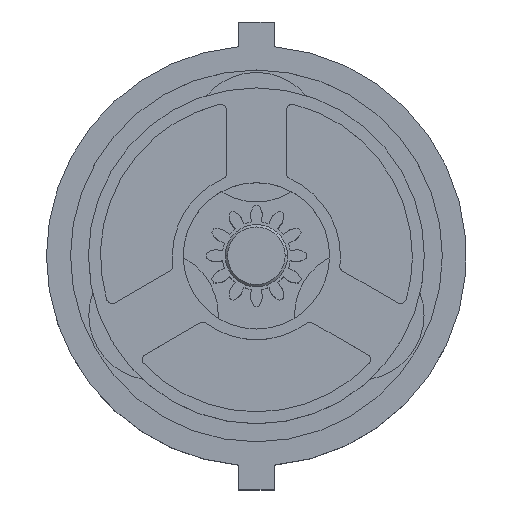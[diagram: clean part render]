
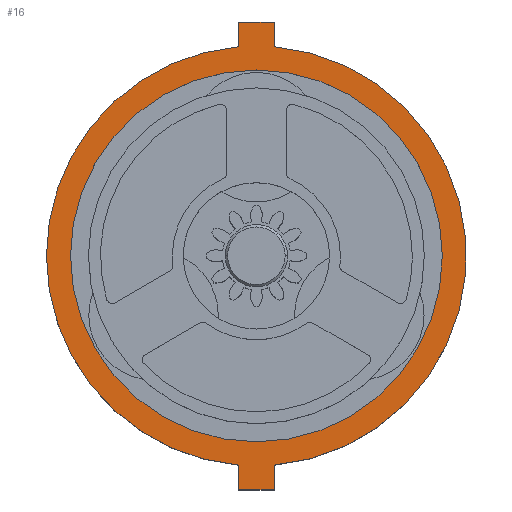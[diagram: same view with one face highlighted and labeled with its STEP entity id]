
A CAD part, top view. The second image highlights one B-rep face of the part: STEP entity #16.
In plain terms, the highlighted planar face has unit normal (0, 0, 1).
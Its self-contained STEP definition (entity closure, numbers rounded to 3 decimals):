
#16 = ADVANCED_FACE ( 'NONE', ( #10467, #9628 ), #8564, .T. ) ;
#122 = ORIENTED_EDGE ( 'NONE', *, *, #7632, .T. ) ;
#283 = ORIENTED_EDGE ( 'NONE', *, *, #7115, .T. ) ;
#486 = VECTOR ( 'NONE', #4124, 1000. ) ;
#513 = ORIENTED_EDGE ( 'NONE', *, *, #13094, .T. ) ;
#783 = CARTESIAN_POINT ( 'NONE',  ( 15.5, 0., 4.5 ) ) ;
#1012 = ORIENTED_EDGE ( 'NONE', *, *, #5580, .T. ) ;
#1371 = CARTESIAN_POINT ( 'NONE',  ( 0., 0., 4.5 ) ) ;
#1378 = ORIENTED_EDGE ( 'NONE', *, *, #4938, .T. ) ;
#1844 = CARTESIAN_POINT ( 'NONE',  ( -1.5, -19.5, 4.5 ) ) ;
#1932 = EDGE_CURVE ( 'NONE', #12867, #13329, #11284, .T. ) ;
#1973 = DIRECTION ( 'NONE',  ( 1., 0., 0. ) ) ;
#2109 = AXIS2_PLACEMENT_3D ( 'NONE', #7682, #3097, #3163 ) ;
#2164 = CARTESIAN_POINT ( 'NONE',  ( -17.5, 0., 4.5 ) ) ;
#2802 = CARTESIAN_POINT ( 'NONE',  ( -1.5, 17.436, 4.5 ) ) ;
#2823 = CARTESIAN_POINT ( 'NONE',  ( -1.5, 17.436, 4.5 ) ) ;
#2829 = VERTEX_POINT ( 'NONE', #11119 ) ;
#2920 = EDGE_CURVE ( 'NONE', #3107, #10371, #13576, .T. ) ;
#3029 = CARTESIAN_POINT ( 'NONE',  ( -1.5, 19.5, 4.5 ) ) ;
#3097 = DIRECTION ( 'NONE',  ( 0., 0., 1. ) ) ;
#3107 = VERTEX_POINT ( 'NONE', #7514 ) ;
#3163 = DIRECTION ( 'NONE',  ( 1., 0., 0. ) ) ;
#3195 = DIRECTION ( 'NONE',  ( 0., 0., 1. ) ) ;
#3249 = DIRECTION ( 'NONE',  ( 0., 0., 1. ) ) ;
#3260 = DIRECTION ( 'NONE',  ( -1., 0., 0. ) ) ;
#3361 = CARTESIAN_POINT ( 'NONE',  ( 0., 0., 4.5 ) ) ;
#3383 = VERTEX_POINT ( 'NONE', #5373 ) ;
#3479 = AXIS2_PLACEMENT_3D ( 'NONE', #3361, #12950, #8924 ) ;
#3516 = CARTESIAN_POINT ( 'NONE',  ( -15.5, 0., 4.5 ) ) ;
#3737 = DIRECTION ( 'NONE',  ( 0., -1., 0. ) ) ;
#4117 = CIRCLE ( 'NONE', #13799, 15.5 ) ;
#4124 = DIRECTION ( 'NONE',  ( 0., 1., 0. ) ) ;
#4382 = CARTESIAN_POINT ( 'NONE',  ( -1.5, -19.5, 4.5 ) ) ;
#4732 = CARTESIAN_POINT ( 'NONE',  ( -1.5, -19.5, 4.5 ) ) ;
#4771 = EDGE_CURVE ( 'NONE', #9414, #11873, #4117, .T. ) ;
#4791 = EDGE_LOOP ( 'NONE', ( #8716, #8245 ) ) ;
#4938 = EDGE_CURVE ( 'NONE', #3383, #7854, #7848, .T. ) ;
#5054 = CARTESIAN_POINT ( 'NONE',  ( 1.5, 17.436, 4.5 ) ) ;
#5252 = ORIENTED_EDGE ( 'NONE', *, *, #1932, .T. ) ;
#5373 = CARTESIAN_POINT ( 'NONE',  ( -1.5, -17.436, 4.5 ) ) ;
#5490 = CIRCLE ( 'NONE', #2109, 17.5 ) ;
#5580 = EDGE_CURVE ( 'NONE', #10371, #2829, #7759, .T. ) ;
#5922 = VECTOR ( 'NONE', #12152, 1000. ) ;
#6416 = EDGE_CURVE ( 'NONE', #7854, #3107, #9670, .T. ) ;
#6569 = DIRECTION ( 'NONE',  ( 1., 0., 0. ) ) ;
#6711 = AXIS2_PLACEMENT_3D ( 'NONE', #8538, #3249, #1973 ) ;
#7115 = EDGE_CURVE ( 'NONE', #2829, #7221, #10202, .T. ) ;
#7221 = VERTEX_POINT ( 'NONE', #10550 ) ;
#7321 = EDGE_LOOP ( 'NONE', ( #1012, #283, #122, #5252, #7360, #513, #1378, #13392, #12082 ) ) ;
#7360 = ORIENTED_EDGE ( 'NONE', *, *, #9550, .T. ) ;
#7514 = CARTESIAN_POINT ( 'NONE',  ( 1.5, -19.5, 4.5 ) ) ;
#7632 = EDGE_CURVE ( 'NONE', #7221, #12867, #9672, .T. ) ;
#7682 = CARTESIAN_POINT ( 'NONE',  ( 0., 0., 4.5 ) ) ;
#7759 = CIRCLE ( 'NONE', #3479, 17.5 ) ;
#7848 = LINE ( 'NONE', #4732, #5922 ) ;
#7854 = VERTEX_POINT ( 'NONE', #1844 ) ;
#7924 = DIRECTION ( 'NONE',  ( 1., 0., 0. ) ) ;
#8031 = VECTOR ( 'NONE', #3260, 1000. ) ;
#8062 = CIRCLE ( 'NONE', #6711, 17.5 ) ;
#8122 = VECTOR ( 'NONE', #3737, 1000. ) ;
#8245 = ORIENTED_EDGE ( 'NONE', *, *, #8932, .F. ) ;
#8268 = AXIS2_PLACEMENT_3D ( 'NONE', #1371, #13281, #7924 ) ;
#8538 = CARTESIAN_POINT ( 'NONE',  ( 0., 0., 4.5 ) ) ;
#8561 = CARTESIAN_POINT ( 'NONE',  ( 0., 0., 4.5 ) ) ;
#8564 = PLANE ( 'NONE',  #10345 ) ;
#8716 = ORIENTED_EDGE ( 'NONE', *, *, #4771, .F. ) ;
#8924 = DIRECTION ( 'NONE',  ( 1., 0., 0. ) ) ;
#8932 = EDGE_CURVE ( 'NONE', #11873, #9414, #12100, .T. ) ;
#9414 = VERTEX_POINT ( 'NONE', #783 ) ;
#9415 = CARTESIAN_POINT ( 'NONE',  ( 1.5, -19.5, 4.5 ) ) ;
#9424 = DIRECTION ( 'NONE',  ( 0., 1., 0. ) ) ;
#9479 = DIRECTION ( 'NONE',  ( 0., 0., 1. ) ) ;
#9550 = EDGE_CURVE ( 'NONE', #13329, #10046, #8062, .T. ) ;
#9577 = VECTOR ( 'NONE', #6569, 1000. ) ;
#9628 = FACE_OUTER_BOUND ( 'NONE', #7321, .T. ) ;
#9670 = LINE ( 'NONE', #4382, #9577 ) ;
#9672 = LINE ( 'NONE', #12918, #8031 ) ;
#10046 = VERTEX_POINT ( 'NONE', #2164 ) ;
#10202 = LINE ( 'NONE', #5054, #12304 ) ;
#10345 = AXIS2_PLACEMENT_3D ( 'NONE', #13783, #9479, #11735 ) ;
#10371 = VERTEX_POINT ( 'NONE', #11326 ) ;
#10467 = FACE_BOUND ( 'NONE', #4791, .T. ) ;
#10550 = CARTESIAN_POINT ( 'NONE',  ( 1.5, 19.5, 4.5 ) ) ;
#11119 = CARTESIAN_POINT ( 'NONE',  ( 1.5, 17.436, 4.5 ) ) ;
#11284 = LINE ( 'NONE', #2823, #8122 ) ;
#11326 = CARTESIAN_POINT ( 'NONE',  ( 1.5, -17.436, 4.5 ) ) ;
#11735 = DIRECTION ( 'NONE',  ( 1., 0., 0. ) ) ;
#11873 = VERTEX_POINT ( 'NONE', #3516 ) ;
#12082 = ORIENTED_EDGE ( 'NONE', *, *, #2920, .T. ) ;
#12100 = CIRCLE ( 'NONE', #8268, 15.5 ) ;
#12152 = DIRECTION ( 'NONE',  ( 0., -1., 0. ) ) ;
#12304 = VECTOR ( 'NONE', #9424, 1000. ) ;
#12860 = DIRECTION ( 'NONE',  ( 1., 0., 0. ) ) ;
#12867 = VERTEX_POINT ( 'NONE', #3029 ) ;
#12918 = CARTESIAN_POINT ( 'NONE',  ( -1.5, 19.5, 4.5 ) ) ;
#12950 = DIRECTION ( 'NONE',  ( 0., 0., 1. ) ) ;
#13094 = EDGE_CURVE ( 'NONE', #10046, #3383, #5490, .T. ) ;
#13281 = DIRECTION ( 'NONE',  ( 0., 0., 1. ) ) ;
#13329 = VERTEX_POINT ( 'NONE', #2802 ) ;
#13392 = ORIENTED_EDGE ( 'NONE', *, *, #6416, .T. ) ;
#13576 = LINE ( 'NONE', #9415, #486 ) ;
#13783 = CARTESIAN_POINT ( 'NONE',  ( 0., 0., 4.5 ) ) ;
#13799 = AXIS2_PLACEMENT_3D ( 'NONE', #8561, #3195, #12860 ) ;
